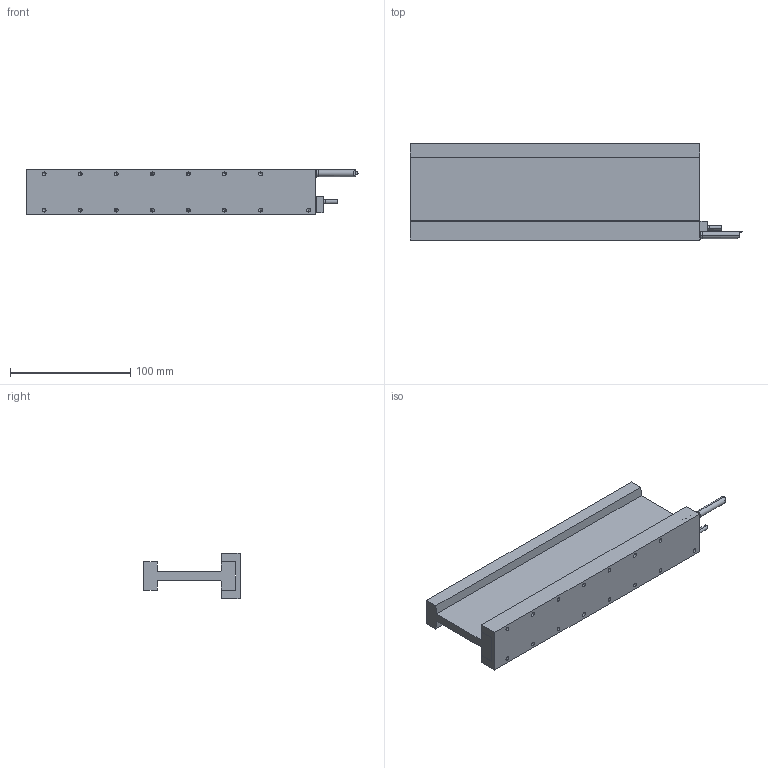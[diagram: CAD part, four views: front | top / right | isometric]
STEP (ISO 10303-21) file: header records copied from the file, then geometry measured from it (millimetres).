
FILE_DESCRIPTION (( 'STEP AP214' ), '1' );
FILE_NAME ('DX50F-C4.step', '2022-05-06T04:04:04', ( '' ), ( '' ), 'SwSTEP 2.0', 'SolidWorks 2020', '' );
FILE_SCHEMA (( 'AUTOMOTIVE_DESIGN' ));
Length unit declared in the file: millimetre
Products named in the file (1): DX50F-C4
Bounding box: 276 x 80 x 38.2 mm (x, y, z)
Volume: 298002.9 mm3; surface area: 94258.7 mm2
Topology: 7 solids, 7 shells, 206 faces, 484 edges, 281 vertices
Faces by surface type: plane 86, cylinder 66, cone 46, torus 8
Entity records: 8001 total; most frequent: CARTESIAN_POINT 1029, DIRECTION 1008, ORIENTED_EDGE 892, EDGE_CURVE 446, AXIS2_PLACEMENT_3D 368, VERTEX_POINT 281, LINE 272, VECTOR 272
